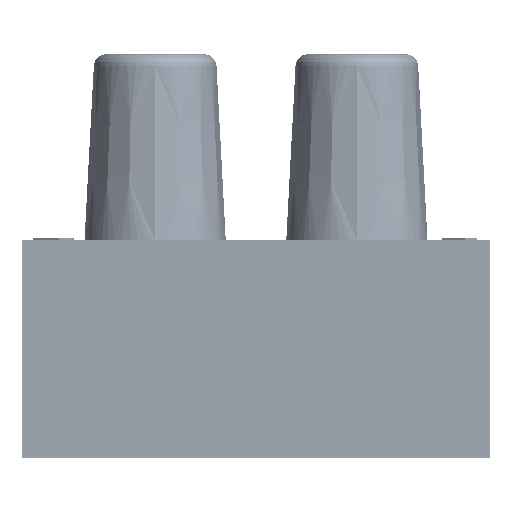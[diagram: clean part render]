
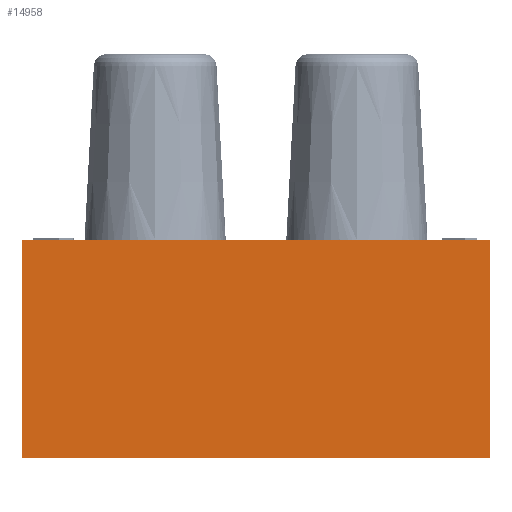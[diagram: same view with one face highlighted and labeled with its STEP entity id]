
A CAD part, left-side view. The second image highlights one B-rep face of the part: STEP entity #14958.
In plain terms, the highlighted planar face has unit normal (-1, 0, 0).
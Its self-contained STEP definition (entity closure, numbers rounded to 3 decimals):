
#3178=CARTESIAN_POINT('',(0.,23.2,10.8));
#3179=VERTEX_POINT('',#3178);
#3186=CARTESIAN_POINT('',(0.,0.,10.8));
#3187=VERTEX_POINT('',#3186);
#3188=CARTESIAN_POINT('',(0.,23.2,10.8));
#3189=DIRECTION('',(0.,-1.,0.));
#3190=VECTOR('',#3189,23.2);
#3191=LINE('',#3188,#3190);
#3192=EDGE_CURVE('',#3179,#3187,#3191,.T.);
#10840=CARTESIAN_POINT('',(0.,0.,0.));
#10841=VERTEX_POINT('',#10840);
#10850=CARTESIAN_POINT('',(0.,23.2,0.));
#10851=VERTEX_POINT('',#10850);
#10852=CARTESIAN_POINT('',(0.,23.2,0.));
#10853=DIRECTION('',(0.,-1.,0.));
#10854=VECTOR('',#10853,23.2);
#10855=LINE('',#10852,#10854);
#10856=EDGE_CURVE('',#10851,#10841,#10855,.T.);
#14937=CARTESIAN_POINT('',(0.,23.2,2.7));
#14938=DIRECTION('',(1.,0.,0.));
#14939=DIRECTION('',(0.,0.,-1.));
#14940=AXIS2_PLACEMENT_3D('',#14937,#14938,#14939);
#14941=PLANE('',#14940);
#14942=CARTESIAN_POINT('',(0.,0.,0.));
#14943=DIRECTION('',(0.,0.,1.));
#14944=VECTOR('',#14943,10.8);
#14945=LINE('',#14942,#14944);
#14946=EDGE_CURVE('',#10841,#3187,#14945,.T.);
#14947=ORIENTED_EDGE('',*,*,#14946,.T.);
#14948=ORIENTED_EDGE('',*,*,#3192,.F.);
#14949=CARTESIAN_POINT('',(0.,23.2,0.));
#14950=DIRECTION('',(0.,0.,1.));
#14951=VECTOR('',#14950,10.8);
#14952=LINE('',#14949,#14951);
#14953=EDGE_CURVE('',#10851,#3179,#14952,.T.);
#14954=ORIENTED_EDGE('',*,*,#14953,.F.);
#14955=ORIENTED_EDGE('',*,*,#10856,.T.);
#14956=EDGE_LOOP('',(#14947,#14948,#14954,#14955));
#14957=FACE_BOUND('',#14956,.T.);
#14958=ADVANCED_FACE('',(#14957),#14941,.F.);
